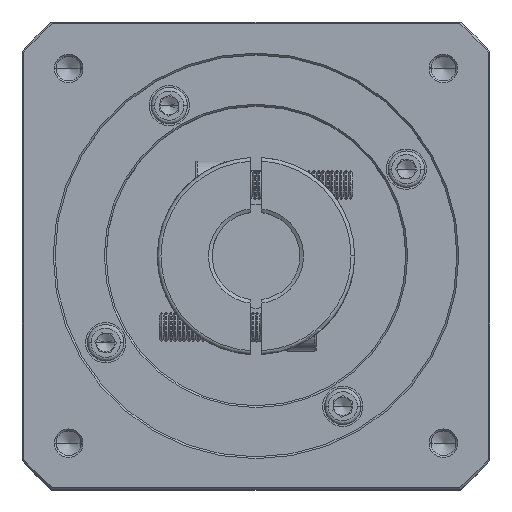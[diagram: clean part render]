
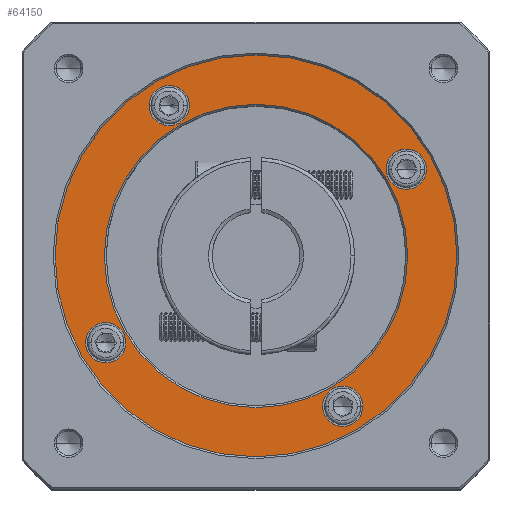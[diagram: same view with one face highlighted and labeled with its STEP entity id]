
A CAD part, top view. The second image highlights one B-rep face of the part: STEP entity #64150.
In plain terms, the highlighted planar face has unit normal (0, 0, 1).
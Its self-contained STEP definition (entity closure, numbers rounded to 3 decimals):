
#493 = CIRCLE ( 'NONE', #79520, 5.5 ) ;
#1769 = AXIS2_PLACEMENT_3D ( 'NONE', #106728, #50545, #116199 ) ;
#3413 = EDGE_CURVE ( 'NONE', #15053, #97931, #83007, .T. ) ;
#4238 = VERTEX_POINT ( 'NONE', #6412 ) ;
#6412 = CARTESIAN_POINT ( 'NONE',  ( 59.896, 72.92, -0.976 ) ) ;
#8264 = FACE_BOUND ( 'NONE', #49826, .T. ) ;
#10334 = CARTESIAN_POINT ( 'NONE',  ( 59.896, 114.42, -0.976 ) ) ;
#12617 = ORIENTED_EDGE ( 'NONE', *, *, #95190, .T. ) ;
#14962 = VERTEX_POINT ( 'NONE', #66439 ) ;
#15053 = VERTEX_POINT ( 'NONE', #20831 ) ;
#16864 = DIRECTION ( 'NONE',  ( 0., 0., -1. ) ) ;
#18587 = DIRECTION ( 'NONE',  ( 0., 0., -1. ) ) ;
#19428 = CARTESIAN_POINT ( 'NONE',  ( 30.646, 155.556, -0.976 ) ) ;
#19779 = DIRECTION ( 'NONE',  ( 1., 0., 0. ) ) ;
#20250 = ORIENTED_EDGE ( 'NONE', *, *, #72600, .T. ) ;
#20416 = AXIS2_PLACEMENT_3D ( 'NONE', #100992, #44832, #110457 ) ;
#20831 = CARTESIAN_POINT ( 'NONE',  ( 41.646, 155.556, -0.976 ) ) ;
#21027 = CIRCLE ( 'NONE', #20416, 5.5 ) ;
#22299 = CIRCLE ( 'NONE', #103539, 5.5 ) ;
#22787 = CARTESIAN_POINT ( 'NONE',  ( 18.76, 90.67, -0.976 ) ) ;
#22807 = VERTEX_POINT ( 'NONE', #69271 ) ;
#23287 = CARTESIAN_POINT ( 'NONE',  ( 36.146, 155.556, -0.976 ) ) ;
#25763 = EDGE_CURVE ( 'NONE', #32605, #60913, #120948, .T. ) ;
#25793 = ORIENTED_EDGE ( 'NONE', *, *, #83138, .T. ) ;
#25812 = VERTEX_POINT ( 'NONE', #98268 ) ;
#26550 = AXIS2_PLACEMENT_3D ( 'NONE', #40145, #105753, #49561 ) ;
#26636 = EDGE_LOOP ( 'NONE', ( #71196, #20250 ) ) ;
#27281 = EDGE_CURVE ( 'NONE', #37471, #35941, #97363, .T. ) ;
#27457 = EDGE_CURVE ( 'NONE', #14962, #117744, #101742, .T. ) ;
#28401 = CARTESIAN_POINT ( 'NONE',  ( 59.896, 114.42, -0.976 ) ) ;
#30293 = FACE_BOUND ( 'NONE', #26636, .T. ) ;
#31476 = ORIENTED_EDGE ( 'NONE', *, *, #34659, .T. ) ;
#32178 = ORIENTED_EDGE ( 'NONE', *, *, #75733, .T. ) ;
#32208 = DIRECTION ( 'NONE',  ( 1., 0., 0. ) ) ;
#32605 = VERTEX_POINT ( 'NONE', #107664 ) ;
#32721 = DIRECTION ( 'NONE',  ( 1., 0., 0. ) ) ;
#33217 = FACE_OUTER_BOUND ( 'NONE', #63201, .T. ) ;
#34659 = EDGE_CURVE ( 'NONE', #4238, #22807, #57182, .T. ) ;
#35941 = VERTEX_POINT ( 'NONE', #98291 ) ;
#37471 = VERTEX_POINT ( 'NONE', #87734 ) ;
#37827 = DIRECTION ( 'NONE',  ( 0., -1., 0. ) ) ;
#37891 = DIRECTION ( 'NONE',  ( 0., 0., -1. ) ) ;
#38224 = VERTEX_POINT ( 'NONE', #71596 ) ;
#40145 = CARTESIAN_POINT ( 'NONE',  ( 59.896, 114.42, -0.976 ) ) ;
#40724 = PLANE ( 'NONE',  #1769 ) ;
#41119 = DIRECTION ( 'NONE',  ( 0., 0., -1. ) ) ;
#41654 = AXIS2_PLACEMENT_3D ( 'NONE', #22787, #88431, #32208 ) ;
#43565 = DIRECTION ( 'NONE',  ( 0., 0., -1. ) ) ;
#44832 = DIRECTION ( 'NONE',  ( 0., 0., -1. ) ) ;
#49561 = DIRECTION ( 'NONE',  ( 1., 0., 0. ) ) ;
#49826 = EDGE_LOOP ( 'NONE', ( #70770, #113905 ) ) ;
#50545 = DIRECTION ( 'NONE',  ( 0., 0., 1. ) ) ;
#52383 = DIRECTION ( 'NONE',  ( 0., 0., -1. ) ) ;
#52932 = AXIS2_PLACEMENT_3D ( 'NONE', #10334, #76019, #19779 ) ;
#55316 = FACE_BOUND ( 'NONE', #115045, .T. ) ;
#57182 = CIRCLE ( 'NONE', #106482, 41.5 ) ;
#60913 = VERTEX_POINT ( 'NONE', #102688 ) ;
#63201 = EDGE_LOOP ( 'NONE', ( #12617, #32178 ) ) ;
#64150 = ADVANCED_FACE ( 'NONE', ( #33217, #80208, #8264, #105149, #55316, #30293 ), #40724, .T. ) ;
#64277 = ORIENTED_EDGE ( 'NONE', *, *, #115022, .T. ) ;
#66439 = CARTESIAN_POINT ( 'NONE',  ( 78.146, 73.284, -0.976 ) ) ;
#67260 = EDGE_LOOP ( 'NONE', ( #111544, #86794 ) ) ;
#69271 = CARTESIAN_POINT ( 'NONE',  ( 59.896, 155.92, -0.976 ) ) ;
#70770 = ORIENTED_EDGE ( 'NONE', *, *, #96463, .T. ) ;
#71196 = ORIENTED_EDGE ( 'NONE', *, *, #25763, .T. ) ;
#71596 = CARTESIAN_POINT ( 'NONE',  ( 114.896, 114.42, -0.976 ) ) ;
#72600 = EDGE_CURVE ( 'NONE', #60913, #32605, #22299, .T. ) ;
#73076 = CARTESIAN_POINT ( 'NONE',  ( 83.646, 73.284, -0.976 ) ) ;
#74808 = CARTESIAN_POINT ( 'NONE',  ( 83.646, 73.284, -0.976 ) ) ;
#75733 = EDGE_CURVE ( 'NONE', #25812, #38224, #121495, .T. ) ;
#76019 = DIRECTION ( 'NONE',  ( 0., 0., 1. ) ) ;
#76598 = CIRCLE ( 'NONE', #82220, 41.5 ) ;
#79520 = AXIS2_PLACEMENT_3D ( 'NONE', #23287, #88931, #32721 ) ;
#80208 = FACE_BOUND ( 'NONE', #110345, .T. ) ;
#82220 = AXIS2_PLACEMENT_3D ( 'NONE', #28401, #94043, #37827 ) ;
#82509 = DIRECTION ( 'NONE',  ( 1., 0., 0. ) ) ;
#83007 = CIRCLE ( 'NONE', #119641, 5.5 ) ;
#83138 = EDGE_CURVE ( 'NONE', #22807, #4238, #76598, .T. ) ;
#84231 = DIRECTION ( 'NONE',  ( 1., 0., 0. ) ) ;
#85809 = AXIS2_PLACEMENT_3D ( 'NONE', #73076, #16864, #82509 ) ;
#86794 = ORIENTED_EDGE ( 'NONE', *, *, #114293, .T. ) ;
#87734 = CARTESIAN_POINT ( 'NONE',  ( 95.532, 138.17, -0.976 ) ) ;
#88431 = DIRECTION ( 'NONE',  ( 0., 0., -1. ) ) ;
#88931 = DIRECTION ( 'NONE',  ( 0., 0., -1. ) ) ;
#90243 = CIRCLE ( 'NONE', #26550, 55. ) ;
#94043 = DIRECTION ( 'NONE',  ( 0., 0., -1. ) ) ;
#94106 = CARTESIAN_POINT ( 'NONE',  ( 59.896, 114.42, -0.976 ) ) ;
#95190 = EDGE_CURVE ( 'NONE', #38224, #25812, #90243, .T. ) ;
#96463 = EDGE_CURVE ( 'NONE', #35941, #37471, #21027, .T. ) ;
#97269 = CARTESIAN_POINT ( 'NONE',  ( 18.76, 90.67, -0.976 ) ) ;
#97363 = CIRCLE ( 'NONE', #119696, 5.5 ) ;
#97426 = CARTESIAN_POINT ( 'NONE',  ( 89.146, 73.284, -0.976 ) ) ;
#97931 = VERTEX_POINT ( 'NONE', #19428 ) ;
#98268 = CARTESIAN_POINT ( 'NONE',  ( 4.896, 114.42, -0.976 ) ) ;
#98291 = CARTESIAN_POINT ( 'NONE',  ( 106.532, 138.17, -0.976 ) ) ;
#99739 = CARTESIAN_POINT ( 'NONE',  ( 101.032, 138.17, -0.976 ) ) ;
#100992 = CARTESIAN_POINT ( 'NONE',  ( 101.032, 138.17, -0.976 ) ) ;
#101679 = CIRCLE ( 'NONE', #107874, 5.5 ) ;
#101742 = CIRCLE ( 'NONE', #85809, 5.5 ) ;
#102557 = ORIENTED_EDGE ( 'NONE', *, *, #27457, .T. ) ;
#102688 = CARTESIAN_POINT ( 'NONE',  ( 13.26, 90.67, -0.976 ) ) ;
#103511 = DIRECTION ( 'NONE',  ( 0., -1., 0. ) ) ;
#103539 = AXIS2_PLACEMENT_3D ( 'NONE', #97269, #41119, #106718 ) ;
#105149 = FACE_BOUND ( 'NONE', #67260, .T. ) ;
#105753 = DIRECTION ( 'NONE',  ( 0., 0., 1. ) ) ;
#106482 = AXIS2_PLACEMENT_3D ( 'NONE', #94106, #37891, #103511 ) ;
#106718 = DIRECTION ( 'NONE',  ( 1., 0., 0. ) ) ;
#106728 = CARTESIAN_POINT ( 'NONE',  ( 59.896, 114.42, -0.976 ) ) ;
#107664 = CARTESIAN_POINT ( 'NONE',  ( 24.26, 90.67, -0.976 ) ) ;
#107874 = AXIS2_PLACEMENT_3D ( 'NONE', #74808, #18587, #84231 ) ;
#108547 = CARTESIAN_POINT ( 'NONE',  ( 36.146, 155.556, -0.976 ) ) ;
#109190 = DIRECTION ( 'NONE',  ( 1., 0., 0. ) ) ;
#110345 = EDGE_LOOP ( 'NONE', ( #31476, #25793 ) ) ;
#110457 = DIRECTION ( 'NONE',  ( 1., 0., 0. ) ) ;
#111544 = ORIENTED_EDGE ( 'NONE', *, *, #3413, .T. ) ;
#113905 = ORIENTED_EDGE ( 'NONE', *, *, #27281, .T. ) ;
#114293 = EDGE_CURVE ( 'NONE', #97931, #15053, #493, .T. ) ;
#115022 = EDGE_CURVE ( 'NONE', #117744, #14962, #101679, .T. ) ;
#115045 = EDGE_LOOP ( 'NONE', ( #64277, #102557 ) ) ;
#116199 = DIRECTION ( 'NONE',  ( 1., 0., 0. ) ) ;
#117744 = VERTEX_POINT ( 'NONE', #97426 ) ;
#118041 = DIRECTION ( 'NONE',  ( 1., 0., 0. ) ) ;
#119641 = AXIS2_PLACEMENT_3D ( 'NONE', #108547, #52383, #118041 ) ;
#119696 = AXIS2_PLACEMENT_3D ( 'NONE', #99739, #43565, #109190 ) ;
#120948 = CIRCLE ( 'NONE', #41654, 5.5 ) ;
#121495 = CIRCLE ( 'NONE', #52932, 55. ) ;
